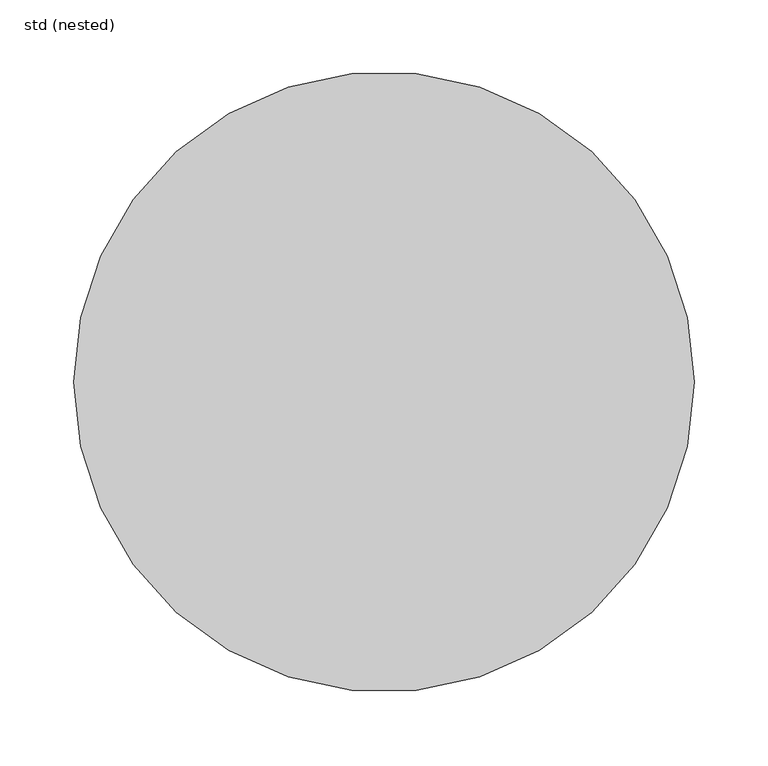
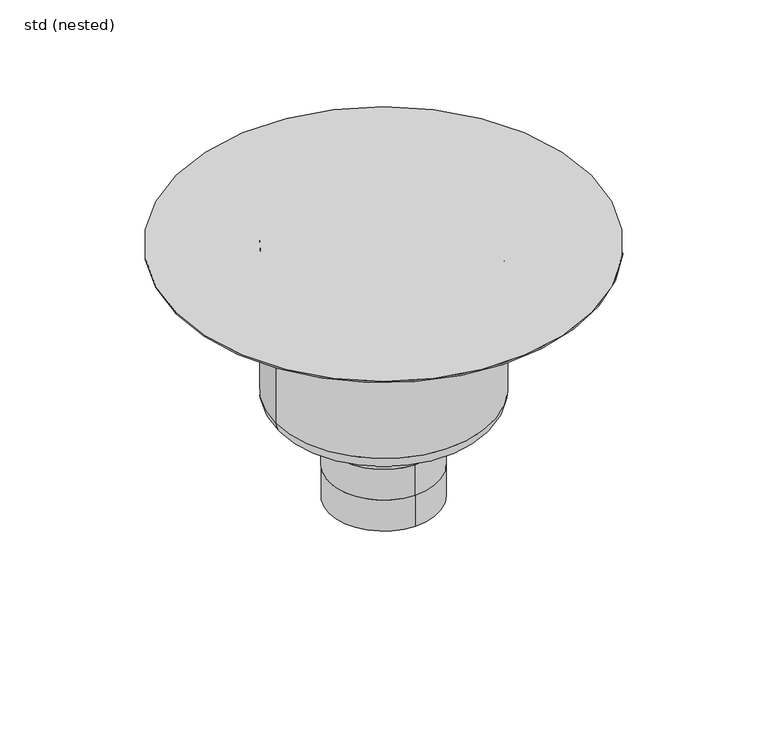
"""IFC4 building model written with IfcOpenShell, lengths in millimetres: sanitary terminal geometry, ZZZ_do not use_PF_ST_UN_telescopic hygienic gully_ACO : std (nested)."""

from ifc_helpers import new_model, si_unit, point, frame, origin, origin_with_axes, place, context, project, spatial, circle_curve, ellipse_curve, trimmed, source, transform, mapped, element, save
from ifc_brep_helpers import plane_surface, cylinder_surface, revolved_surface, advanced_brep


def std_nested_70892438(model_context):
    return source(origin(), model_context, "Body", "AdvancedBrep", [
        advanced_brep(
        [(0.0, -55.0, -269.0), (0.0, 55.0, -269.0), (0.0, -55.0, -236.0), (0.0, 55.0, -236.0), (0.0, -55.0, -203.0), (0.0, 55.0, -203.0), (0.0, 55.0, -170.0), (55.0, 0.0, -170.0), (0.0, -55.0, -170.0), (-55.0, 0.0, -170.0), (109.0, 0.0, -153.5), (-109.0, 0.0, -153.5), (-109.0, 0.0, -1.5), (109.0, 0.0, -1.5), (92.5, 0.0, -170.0), (-92.5, 0.0, -170.0), (-210.0, 0.0, -1.5), (210.0, 0.0, -1.5), (-210.0, 0.0, 0.0), (210.0, 0.0, 0.0)],
        [
            (0, 1, circle_curve(frame((0.0, 0.0, -269.0), z_axis=(0.0, 0.0, -1.0), x_axis=(0.0, 1.0, 0.0)), 55.0)),
            (1, 0, circle_curve(frame((0.0, 0.0, -269.0), z_axis=(0.0, 0.0, -1.0), x_axis=(0.0, 1.0, 0.0)), 55.0)),
            (0, 2),
            (2, 3, circle_curve(frame((0.0, 0.0, -236.0), z_axis=(0.0, 0.0, -1.0), x_axis=(0.0, 1.0, 0.0)), 55.0)),
            (3, 1),
            (3, 2, circle_curve(frame((0.0, 0.0, -236.0), z_axis=(0.0, 0.0, -1.0), x_axis=(0.0, 1.0, 0.0)), 55.0)),
            (4, 2),
            (3, 5),
            (5, 4, circle_curve(frame((0.0, 0.0, -203.0), z_axis=(0.0, 0.0, -1.0), x_axis=(1.0, 0.0, 0.0)), 55.0)),
            (4, 5, circle_curve(frame((0.0, 0.0, -203.0), z_axis=(0.0, 0.0, -1.0), x_axis=(-1.0, 0.0, 0.0)), 55.0)),
            (5, 6),
            (6, 7, circle_curve(frame((0.0, 0.0, -170.0), z_axis=(0.0, 0.0, -1.0), x_axis=(0.0, 1.0, 0.0)), 55.0)),
            (7, 8, circle_curve(frame((0.0, 0.0, -170.0), z_axis=(0.0, 0.0, -1.0), x_axis=(0.0, 1.0, 0.0)), 55.0)),
            (8, 4),
            (8, 9, circle_curve(frame((0.0, 0.0, -170.0), z_axis=(0.0, 0.0, -1.0), x_axis=(0.0, 1.0, 0.0)), 55.0)),
            (9, 6, circle_curve(frame((0.0, 0.0, -170.0), z_axis=(0.0, 0.0, -1.0), x_axis=(0.0, 1.0, 0.0)), 55.0)),
            (10, 11, circle_curve(frame((0.0, 0.0, -153.5), z_axis=(0.0, 0.0, 1.0), x_axis=(-1.0, 0.0, 0.0)), 109.0)),
            (11, 12),
            (12, 13, circle_curve(frame((0.0, 0.0, -1.5), z_axis=(0.0, 0.0, -1.0), x_axis=(-1.0, 0.0, 0.0)), 109.0)),
            (13, 10),
            (11, 10, circle_curve(frame((0.0, 0.0, -153.5), z_axis=(0.0, 0.0, 1.0), x_axis=(-1.0, 0.0, 0.0)), 109.0)),
            (13, 12, circle_curve(frame((0.0, 0.0, -1.5), z_axis=(0.0, 0.0, -1.0), x_axis=(-1.0, 0.0, 0.0)), 109.0)),
            (10, 14, circle_curve(frame((92.5, 0.0, -153.5), z_axis=(0.0, 1.0, 0.0), x_axis=(-1.0, 0.0, 0.0)), 16.5)),
            (14, 15, circle_curve(frame((0.0, 0.0, -170.0), z_axis=(0.0, 0.0, 1.0), x_axis=(-1.0, 0.0, 0.0)), 92.5)),
            (15, 11, circle_curve(frame((-92.5, 0.0, -153.5), z_axis=(0.0, 1.0, 0.0), x_axis=(1.0, 0.0, 0.0)), 16.5)),
            (15, 14, circle_curve(frame((0.0, 0.0, -170.0), z_axis=(0.0, 0.0, 1.0), x_axis=(-1.0, 0.0, 0.0)), 92.5)),
            (14, 7),
            (9, 15),
            (16, 17, circle_curve(frame((0.0, 0.0, -1.5), z_axis=(0.0, 0.0, -1.0), x_axis=(1.0, 0.0, 0.0)), 210.0)),
            (17, 16, circle_curve(frame((0.0, 0.0, -1.5), z_axis=(0.0, 0.0, -1.0), x_axis=(1.0, 0.0, 0.0)), 210.0)),
            (18, 19, circle_curve(origin_with_axes(), 210.0)),
            (19, 18, circle_curve(origin_with_axes(), 210.0)),
            (17, 19),
            (18, 16),
        ],
        [
            plane_surface(frame((0.0, 55.0, -269.0), z_axis=(0.0, 0.0, -1.0), x_axis=(1.0, 0.0, 0.0))),
            cylinder_surface(frame((0.0, 0.0, -236.0), z_axis=(0.0, 0.0, -1.0), x_axis=(0.0, 1.0, 0.0)), 55.0),
            cylinder_surface(frame((0.0, 0.0, -203.0), z_axis=(0.0, 0.0, -1.0), x_axis=(1.0, 0.0, 0.0)), 55.0),
            cylinder_surface(frame((0.0, 0.0, -203.0), z_axis=(0.0, 0.0, -1.0), x_axis=(-1.0, 0.0, 0.0)), 55.0),
            cylinder_surface(frame((0.0, 0.0, -170.0), z_axis=(0.0, 0.0, -1.0), x_axis=(0.0, 1.0, 0.0)), 55.0),
            cylinder_surface(frame((0.0, 0.0, 60.0), z_axis=(0.0, 0.0, -1.0), x_axis=(-1.0, 0.0, 0.0)), 109.0),
            revolved_surface(trimmed(ellipse_curve(frame((-92.5, 0.0, -153.5), z_axis=(0.0, -1.0, 0.0), x_axis=(1.0, 0.0, 0.0)), 16.5, 16.5), [point((-109.0, 0.0, -153.5))], [point((-92.5, 0.0, -170.0))], True, "CARTESIAN"), (0.0, 0.0, 60.0), (0.0, 0.0, -1.0)),
            plane_surface(frame((0.0, 0.0, -170.0), z_axis=(0.0, 0.0, -1.0), x_axis=(-1.0, 0.0, 0.0))),
            plane_surface(frame((210.0, 0.0, -1.5), z_axis=(0.0, 0.0, -1.0), x_axis=(0.0, -1.0, 0.0))),
            plane_surface(frame((210.0, 0.0, 0.0), z_axis=(0.0, 0.0, 1.0), x_axis=(0.0, 1.0, 0.0))),
            cylinder_surface(frame((0.0, 0.0, -1.5), z_axis=(0.0, 0.0, 1.0), x_axis=(1.0, 0.0, 0.0)), 210.0),
        ],
        [
            (0, [[1, 2]]),
            (1, [[-1, 3, 4, 5]]),
            (1, [[-2, -5, 6, -3]]),
            (2, [[7, -6, 8, 9]]),
            (3, [[-7, 10, -8, -4]]),
            (4, [[11, 12, 13, 14, -9]]),
            (4, [[-11, -10, -14, 15, 16]]),
            (5, [[17, 18, 19, 20]]),
            (5, [[-18, 21, -20, 22]]),
            (6, [[-17, 23, 24, 25]]),
            (6, [[-21, -25, 26, -23]]),
            (7, [[-24, 27, -12, -16, 28]]),
            (7, [[-26, -28, -15, -13, -27]]),
            (8, [[29, 30], [-19, -22]]),
            (9, [[31, 32]]),
            (10, [[-30, 33, -31, 34]]),
            (10, [[-29, -34, -32, -33]]),
        ],
    ),
    ])


if __name__ == "__main__":
    model = new_model("IFC4")
    model_context = context("Model", 3, world=origin())
    ifc_project = project(units=[si_unit("LENGTHUNIT", "METRE", prefix="MILLI")], contexts=[model_context])
    site = spatial("IfcSite", under=ifc_project)
    building = spatial("IfcBuilding", under=site)
    placement = place(None, origin())
    std_nested_shape = std_nested_70892438(model_context)
    element("IfcSanitaryTerminal", 1, ObjectType="ZZZ_do not use_PF_ST_UN_telescopic hygienic gully_ACO : std (nested)", at=placement, inside=building, context=model_context, shape_type="MappedRepresentation", body=[
        mapped(std_nested_shape, transform((0.0, 0.0, 0.0), x_axis=(1.0, 0.0, 0.0), y_axis=(0.0, 1.0, 0.0), z_axis=(0.0, 0.0, 1.0))),
    ])
    save(model, "model.ifc")
